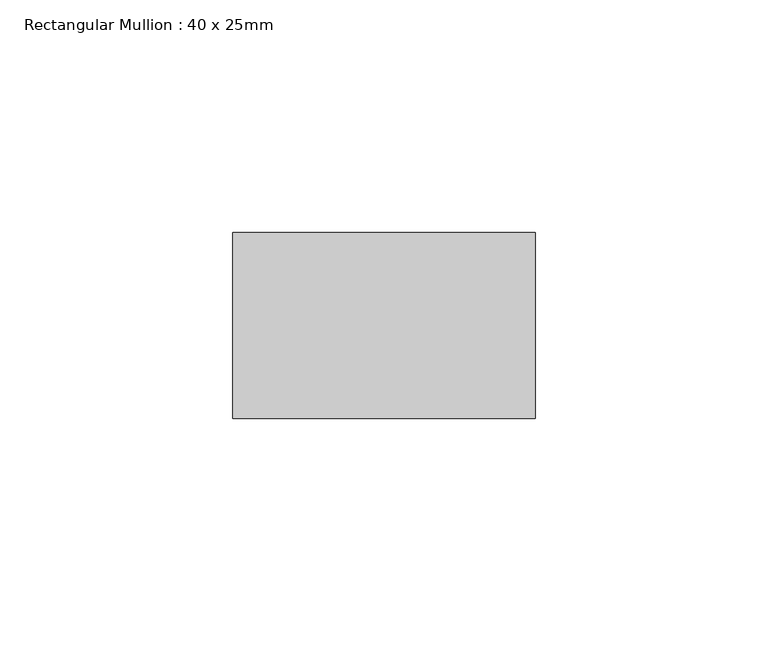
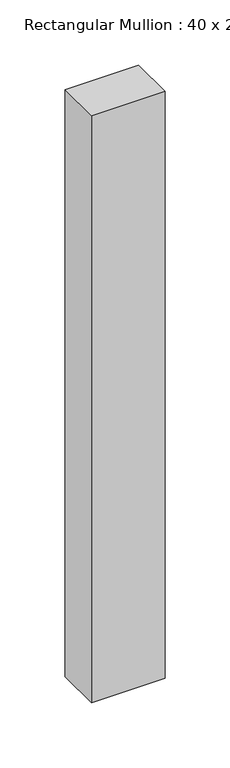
"""IFC4 building model written with IfcOpenShell, lengths in millimetres: member geometry, Rectangular Mullion : 40 x 25mm."""

from ifc_helpers import new_model, si_unit, frame, origin, place, context, project, spatial, polyline, outline, extrude, source, transform, mapped, element, save


def rectangular_mullion_40_x_25mm_db47a62b(model_context):
    return source(origin(), model_context, "Body", "SweptSolid", [
        extrude(outline(polyline([(0.0, -20.0), (0.0, -60.0), (-65.0, -60.0), (-65.0, -20.0), (0.0, -20.0)])), frame((0.0, 0.0, -548.0067316), z_axis=(0.0, 0.0, 1.0), x_axis=(1.0, 0.0, 0.0)), (0.0, 0.0, 1.0), 548.0067316),
    ])


if __name__ == "__main__":
    model = new_model("IFC4")
    model_context = context("Model", 3, world=origin())
    ifc_project = project(units=[si_unit("LENGTHUNIT", "METRE", prefix="MILLI")], contexts=[model_context])
    site = spatial("IfcSite", under=ifc_project)
    building = spatial("IfcBuilding", under=site)
    placement = place(None, origin())
    rectangular_mullion_40_x_25mm_shape = rectangular_mullion_40_x_25mm_db47a62b(model_context)
    element("IfcMember", 1, ObjectType="Rectangular Mullion : 40 x 25mm", at=placement, inside=building, context=model_context, shape_type="MappedRepresentation", body=[
        mapped(rectangular_mullion_40_x_25mm_shape, transform((0.0, 0.0, 0.0), x_axis=(1.0, 0.0, 0.0), y_axis=(0.0, 1.0, 0.0), z_axis=(0.0, 0.0, 1.0))),
    ])
    save(model, "model.ifc")
